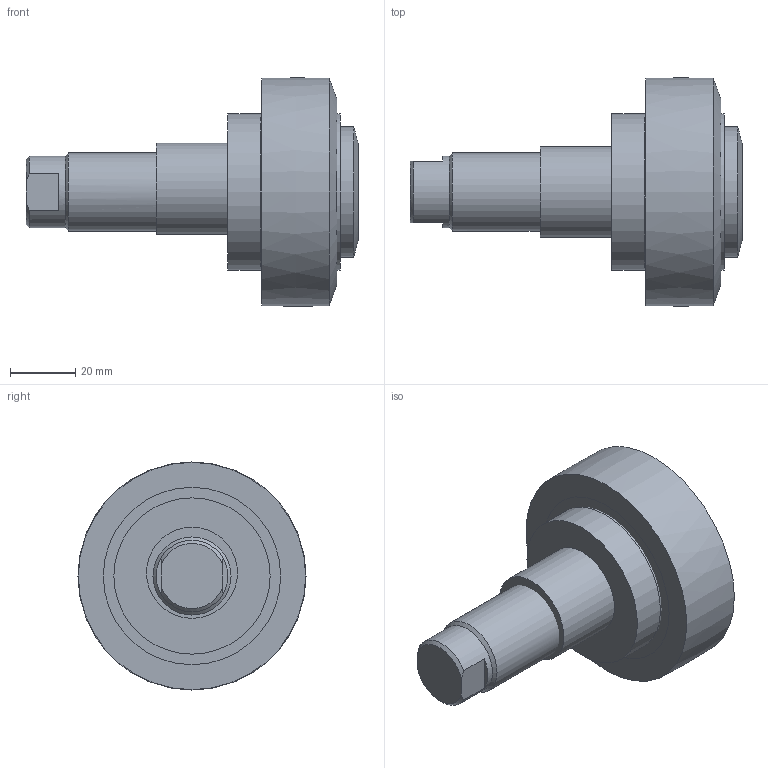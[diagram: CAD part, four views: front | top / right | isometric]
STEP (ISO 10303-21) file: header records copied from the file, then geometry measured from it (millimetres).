
FILE_DESCRIPTION(/* description */ ('-','CAx-IF Rec.Pracs.---Representation and Presentation of Product Manufacturing Information (PMI)---4.0---2014-10-13'),/* implementation_level */ '2;1');
FILE_NAME(/* name */ 'c:\temp\18c3dcb2-5d5a-4da6-98bc-573d1878a8d2\69456d69-a72e-4563-9f69-751f6728f87f.stp',/* time_stamp */ '2020-05-28T13:30:51+02:00',/* author */ ('-'),/* organization */ ('NTI CADcenter A/S'),/* preprocessor_version */ 'ST-DEVELOPER v18',/* originating_system */ 'Autodesk Inventor 2020',/* authorisation */ '-');
FILE_SCHEMA (('AP242_MANAGED_MODEL_BASED_3D_ENGINEERING_MIM_LF { 1 0 10303 442 1 1 4 }'));
Length unit declared in the file: millimetre
Products named in the file (1): TR 070.1360E_Kontur
Bounding box: 102 x 70.1 x 70.09 mm (x, y, z)
Volume: 241065.2 mm3; surface area: 53976 mm2
Topology: 8 solids, 8 shells, 56 faces, 113 edges, 81 vertices
Faces by surface type: plane 30, cylinder 17, cone 8, bspline 1
Full cylindrical faces by diameter (mm): 22 x1, 24 x1, 25.2 x1, 28 x1, 35 x1, 40 x1, 42 x1, 48 x4, 52 x2, 54.5 x2
Entity records: 1718 total; most frequent: CARTESIAN_POINT 349, DIRECTION 289, ORIENTED_EDGE 226, AXIS2_PLACEMENT_3D 126, EDGE_CURVE 113, VERTEX_POINT 81, CIRCLE 70, EDGE_LOOP 64
